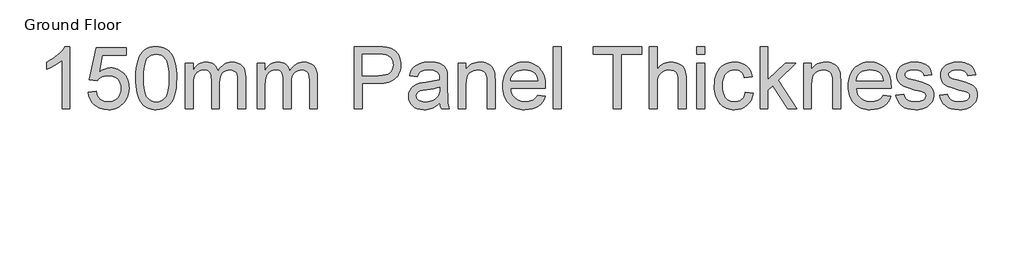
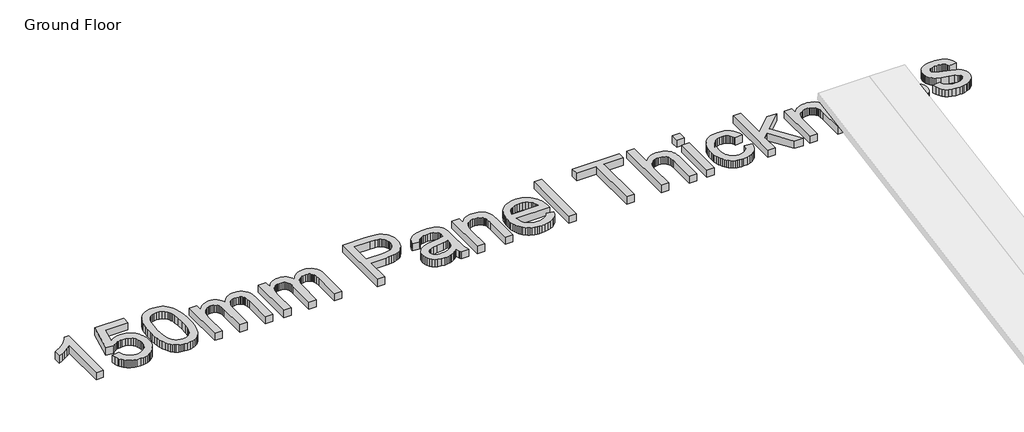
# One storey, part 5 of 5: 1 proxy.
"""IFC4 building model written with IfcOpenShell, lengths in millimetres."""

from ifc_helpers import new_model, si_unit, origin, origin_with_axes, place, context, project, spatial, polyline, outline, extrude, element, save

model = new_model("IFC4")

# Units and contexts
model_context = context("Model", 3, world=origin())
ifc_project = project(units=[si_unit("LENGTHUNIT", "METRE", prefix="MILLI")], contexts=[model_context])

# Site, building, storey
site = spatial("IfcSite", under=ifc_project)
building = spatial("IfcBuilding", under=site)
storey = spatial("IfcBuildingStorey", under=building, Name="Ground Floor", Elevation=0.0)

# Proxy
placement = place(None, origin())
element("IfcBuildingElementProxy", 1, Name="1200mm Arial", ObjectType="1200mm Arial", at=placement, inside=storey, context=model_context, shape_type="SweptSolid", body=[
    extrude(outline(polyline([(13867.9925063, -37488.8663729), (13721.0834154, -37488.8663729), (13721.0834154, -36572.9800092), (13659.7517393, -36622.5833473), (13581.9214836, -36672.1149524), (13500.2176484, -36715.4057905), (13427.2652336, -36746.2868274), (13427.2652336, -36607.4118274), (13486.8842854, -36577.5171186), (13542.647691, -36544.6454922), (13594.5554502, -36508.7969481), (13642.6075631, -36469.9714865), (13685.3693707, -36429.9624311), (13721.4062137, -36390.5631058), (13750.7180922, -36351.7735106), (13773.3050063, -36313.5936456), (13867.9925063, -36313.5936456), (13867.9925063, -37488.8663729)])), origin_with_axes(), (0.0, 0.0, 1.0), 150.0),
    extrude(outline(polyline([(14216.9015972, -37176.6845547), (14363.8106881, -37158.3209183), (14374.7858302, -37205.5481023), (14390.782279, -37246.5165859), (14411.8000347, -37281.2263693), (14437.8390972, -37309.6774524), (14468.8456668, -37331.8339687), (14504.7659438, -37347.6600518), (14545.5999282, -37357.1557017), (14591.3476199, -37360.3209183), (14647.2993245, -37355.9183082), (14696.6515972, -37342.710478), (14739.4044381, -37320.6974275), (14775.5578472, -37289.879157), (14804.3048287, -37251.7799915), (14824.838387, -37207.9242564), (14837.1585219, -37158.3119517), (14841.2652336, -37102.9430774), (14837.4185539, -37050.6138871), (14825.8785148, -37004.095066), (14806.6451164, -36963.3866143), (14779.7183586, -36928.488532), (14745.0085752, -36900.4947464), (14702.4261001, -36880.4991854), (14651.9709332, -36868.5018487), (14593.6430745, -36864.5027365), (14556.3150383, -36866.0987947), (14522.3763841, -36870.8869695), (14491.8271121, -36878.8672606), (14464.6672222, -36890.0396683), (14418.5787989, -36919.3784467), (14382.1743245, -36956.3209183), (14235.2652336, -36937.957282), (14363.8106881, -36331.957282), (14933.0834154, -36331.957282), (14933.0834154, -36478.8663729), (14482.6004609, -36478.8663729), (14419.7623927, -36802.5254638), (14471.6073856, -36765.3677933), (14524.7077052, -36738.8266001), (14579.0633515, -36722.9018842), (14634.6743245, -36717.5936456), (14671.1751901, -36719.2390202), (14706.21898, -36724.1751442), (14739.8056943, -36732.4020174), (14771.935333, -36743.9196399), (14802.607896, -36758.7280117), (14831.8233834, -36776.8271328), (14859.5817952, -36798.2170032), (14885.8831313, -36822.8976229), (14909.8576297, -36850.1651122), (14930.6355283, -36879.3155916), (14948.2168272, -36910.3490611), (14962.6015262, -36943.2655206), (14973.7896254, -36978.0649702), (14981.7811249, -37014.7474098), (14986.5760246, -37053.3128395), (14988.1743245, -37093.7612592), (14982.4177549, -37169.869924), (14965.1480461, -37240.6703501), (14936.3651981, -37306.1625376), (14896.0692109, -37366.3464865), (14866.8200986, -37399.3660621), (14835.0244665, -37427.9830277), (14800.6823145, -37452.1973832), (14763.7936427, -37472.0091285), (14724.3584509, -37487.4182638), (14682.3767393, -37498.4247891), (14637.8485077, -37505.0287042), (14590.7737563, -37507.2300092), (14514.96099, -37501.5720724), (14479.8051173, -37494.4996514), (14446.4829182, -37484.5982621), (14414.9943928, -37471.8679043), (14385.3395411, -37456.3085781), (14357.518363, -37437.9202835), (14331.5308586, -37416.7030206), (14307.8029422, -37393.1499533), (14286.7605283, -37367.7542457), (14268.4036169, -37340.5158979), (14252.732208, -37311.4349098), (14229.4458976, -37247.7450128), (14216.9015972, -37176.6845547)])), origin_with_axes(), (0.0, 0.0, 1.0), 150.0),
    extrude(outline(polyline([(15116.719779, -36910.6987592), (15119.4187314, -36811.8776477), (15127.5155887, -36722.5790859), (15141.0103508, -36642.8030739), (15159.9030177, -36572.5496115), (15184.1128898, -36511.2448352), (15213.5592677, -36458.3148814), (15248.2421512, -36413.75975), (15288.1615404, -36377.579441), (15333.4519346, -36349.5856555), (15384.247833, -36329.5900945), (15440.5492357, -36317.5927578), (15502.3561427, -36313.5936456), (15548.8032307, -36315.9608331), (15592.8831313, -36323.0623956), (15634.5958444, -36334.8983331), (15673.9413699, -36351.4686456), (15709.9692464, -36372.4953679), (15741.729012, -36397.7005348), (15769.2206668, -36427.0841463), (15792.4442109, -36460.6462024), (15812.5653046, -36498.2522038), (15830.7496086, -36539.7676513), (15861.3078472, -36634.5268842), (15872.9823856, -36690.2544233), (15881.3213415, -36754.8589155), (15886.3247151, -36828.3403608), (15887.9925063, -36910.6987592), (15885.3204537, -37008.8922074), (15877.3042961, -37097.7424382), (15863.9440333, -37177.2494517), (15845.2396654, -37247.4132479), (15821.2180922, -37308.744924), (15791.9062137, -37361.7555774), (15757.3040297, -37406.4452081), (15717.4115404, -37442.813816), (15672.0673465, -37470.9959006), (15621.1100489, -37491.1259609), (15564.5396476, -37503.2039972), (15502.3561427, -37507.2300092), (15460.751029, -37505.4815185), (15421.4413699, -37500.2360462), (15384.4271654, -37491.4935923), (15349.7084154, -37479.254157), (15317.2851199, -37463.51774), (15287.157279, -37444.2843416), (15259.3248927, -37421.5539616), (15233.7879609, -37395.3266001), (15206.3501057, -37353.7977028), (15182.5706313, -37306.8260675), (15162.4495376, -37254.4116942), (15145.9868245, -37196.5545831), (15133.1824921, -37133.254734), (15124.0365404, -37064.512147), (15118.5489694, -36990.3268221), (15116.719779, -36910.6987592)]), holes=[polyline([(15263.6288699, -36910.4118274), (15267.9328472, -37038.1233864), (15280.844779, -37141.4995405), (15290.5287279, -37184.0618407), (15302.3646654, -37220.5402898), (15316.3525915, -37250.9348876), (15332.4925063, -37275.2456342), (15368.9328472, -37312.466071), (15409.3902336, -37339.0520973), (15453.8646654, -37355.0037131), (15502.3561427, -37360.3209183), (15550.8476199, -37354.9857798), (15595.3220518, -37338.9803643), (15635.7794381, -37312.3046719), (15672.219779, -37274.9587024), (15688.3596938, -37250.5896728), (15702.3476199, -37220.1636918), (15714.1835574, -37183.6807594), (15723.8675063, -37141.1408757), (15736.7794381, -37037.8902543), (15741.0834154, -36910.4118274), (15736.922904, -36786.0806839), (15724.4413699, -36684.5247535), (15715.0802194, -36642.2874932), (15703.6388131, -36605.7440362), (15690.1171512, -36574.8943824), (15674.5152336, -36549.738532), (15638.6846228, -36510.6978714), (15597.7609722, -36482.8116854), (15551.7442819, -36466.0799737), (15500.6345518, -36460.5027365), (15452.3941398, -36465.4164439), (15408.672904, -36480.157566), (15369.4708444, -36504.726103), (15334.7879609, -36539.1220547), (15318.1100489, -36566.954441), (15303.6558586, -36600.095066), (15291.4253898, -36638.5439297), (15281.4186427, -36682.301032), (15268.0763131, -36785.7399524), (15263.6288699, -36910.4118274)])]), origin_with_axes(), (0.0, 0.0, 1.0), 150.0),
    extrude(outline(polyline([(16053.2652336, -37488.8663729), (16053.2652336, -36625.7754638), (16200.1743245, -36625.7754638), (16200.1743245, -36767.8067138), (16220.6899495, -36733.4197287), (16244.3618245, -36702.5655916), (16271.1899495, -36675.2443025), (16301.1743245, -36651.4558615), (16333.830752, -36632.1865966), (16368.6750347, -36618.4228359), (16405.7071725, -36610.1645795), (16444.9271654, -36607.4118274), (16487.805539, -36610.2183793), (16526.6310006, -36618.6380348), (16561.4035503, -36632.670794), (16592.1231881, -36652.316657), (16618.7002478, -36677.0196932), (16641.0450631, -36706.2239723), (16659.1576341, -36739.9294943), (16673.0379609, -36778.1362592), (16698.8707911, -36738.1227205), (16726.5866114, -36703.4443203), (16756.1854218, -36674.1010586), (16787.6672222, -36650.0929354), (16821.0320127, -36631.4199506), (16856.2797932, -36618.0821044), (16893.4105638, -36610.0793967), (16932.4243245, -36607.4118274), (16991.2363806, -36611.850304), (17042.857208, -36625.1657337), (17087.2868067, -36647.3581165), (17124.5251768, -36678.4274524), (17153.962588, -36718.7324062), (17174.9893103, -36768.6316427), (17187.6053437, -36828.1251619), (17191.8106881, -36897.2129638), (17191.8106881, -37488.8663729), (17044.9015972, -37488.8663729), (17044.9015972, -36960.3379638), (17041.4942819, -36887.0627507), (17031.2723359, -36837.6746115), (17023.0768458, -36819.8579389), (17012.119637, -36803.8525234), (16998.4007094, -36789.658365), (16981.9200631, -36777.2754638), (16963.2784616, -36767.2328501), (16943.0766682, -36760.0595547), (16897.9925063, -36754.3209183), (16856.3604928, -36757.9972322), (16818.4047932, -36769.026174), (16784.1254076, -36787.4077436), (16753.5223359, -36813.141941), (16728.3530354, -36846.9819623), (16710.3749637, -36889.6810035), (16699.5881207, -36941.2390646), (16695.9925063, -37001.6561456), (16695.9925063, -37488.8663729), (16549.0834154, -37488.8663729), (16549.0834154, -36943.9828501), (16546.9583266, -36899.4725518), (16540.5830603, -36860.9160888), (16529.9576164, -36828.3134609), (16515.0819949, -36801.6646683), (16495.3643991, -36780.9517777), (16470.2130319, -36766.1568558), (16439.6278934, -36757.2799027), (16403.6089836, -36754.3209183), (16374.7544026, -36756.2935746), (16347.0116824, -36762.2115433), (16320.3808231, -36772.0748246), (16294.8618245, -36785.8834183), (16271.6203472, -36803.4938587), (16251.8220518, -36824.7626797), (16235.4669381, -36849.6898814), (16222.5550063, -36878.2754638), (16212.763458, -36912.0437521), (16205.7694949, -36952.5190717), (16200.1743245, -37053.5908047), (16200.1743245, -37488.8663729), (16053.2652336, -37488.8663729)])), origin_with_axes(), (0.0, 0.0, 1.0), 150.0),
    extrude(outline(polyline([(17412.1743245, -37488.8663729), (17412.1743245, -36625.7754638), (17559.0834154, -36625.7754638), (17559.0834154, -36767.8067138), (17579.5990404, -36733.4197287), (17603.2709154, -36702.5655916), (17630.0990404, -36675.2443025), (17660.0834154, -36651.4558615), (17692.739843, -36632.1865966), (17727.5841256, -36618.4228359), (17764.6162634, -36610.1645795), (17803.8362563, -36607.4118274), (17846.7146299, -36610.2183793), (17885.5400915, -36618.6380348), (17920.3126412, -36632.670794), (17951.032279, -36652.316657), (17977.6093387, -36677.0196932), (17999.954154, -36706.2239723), (18018.0667251, -36739.9294943), (18031.9470518, -36778.1362592), (18057.779882, -36738.1227205), (18085.4957023, -36703.4443203), (18115.0945127, -36674.1010586), (18146.5763131, -36650.0929354), (18179.9411036, -36631.4199506), (18215.1888841, -36618.0821044), (18252.3196547, -36610.0793967), (18291.3334154, -36607.4118274), (18350.1454715, -36611.850304), (18401.7662989, -36625.1657337), (18446.1958976, -36647.3581165), (18483.4342677, -36678.4274524), (18512.8716789, -36718.7324062), (18533.8984012, -36768.6316427), (18546.5144346, -36828.1251619), (18550.719779, -36897.2129638), (18550.719779, -37488.8663729), (18403.8106881, -37488.8663729), (18403.8106881, -36960.3379638), (18400.4033728, -36887.0627507), (18390.1814268, -36837.6746115), (18381.9859367, -36819.8579389), (18371.0287279, -36803.8525234), (18357.3098003, -36789.658365), (18340.829154, -36777.2754638), (18322.1875525, -36767.2328501), (18301.9857591, -36760.0595547), (18256.9015972, -36754.3209183), (18215.2695837, -36757.9972322), (18177.3138841, -36769.026174), (18143.0344985, -36787.4077436), (18112.4314268, -36813.141941), (18087.2621263, -36846.9819623), (18069.2840546, -36889.6810035), (18058.4972116, -36941.2390646), (18054.9015972, -37001.6561456), (18054.9015972, -37488.8663729), (17907.9925063, -37488.8663729), (17907.9925063, -36943.9828501), (17905.8674175, -36899.4725518), (17899.4921512, -36860.9160888), (17888.8667073, -36828.3134609), (17873.9910859, -36801.6646683), (17854.27349, -36780.9517777), (17829.1221228, -36766.1568558), (17798.5369843, -36757.2799027), (17762.5180745, -36754.3209183), (17733.6634935, -36756.2935746), (17705.9207734, -36762.2115433), (17679.289914, -36772.0748246), (17653.7709154, -36785.8834183), (17630.5294381, -36803.4938587), (17610.7311427, -36824.7626797), (17594.376029, -36849.6898814), (17581.4640972, -36878.2754638), (17571.6725489, -36912.0437521), (17564.6785859, -36952.5190717), (17559.0834154, -37053.5908047), (17559.0834154, -37488.8663729), (17412.1743245, -37488.8663729)])), origin_with_axes(), (0.0, 0.0, 1.0), 150.0),
    extrude(outline(polyline([(19248.5379609, -37488.8663729), (19248.5379609, -36313.5936456), (19684.1004609, -36313.5936456), (19785.5308586, -36316.3912308), (19859.7027336, -36324.7839865), (19900.581551, -36333.5981733), (19937.9992535, -36345.6941427), (19971.9558408, -36361.0718949), (20002.4513131, -36379.7314297), (20029.8084687, -36402.0583118), (20054.3501057, -36428.4381058), (20076.0762243, -36458.8708118), (20094.9868245, -36493.3564297), (20110.3018103, -36530.7561989), (20121.2410859, -36569.9313587), (20127.8046512, -36610.8819091), (20129.9925063, -36653.6078501), (20124.0835042, -36725.7532692), (20116.6972515, -36759.6605401), (20106.3564978, -36792.1241854), (20093.061243, -36823.1442049), (20076.8114871, -36852.7205987), (20057.6072302, -36880.8533668), (20035.4484722, -36907.5425092), (20009.4340679, -36931.8868807), (19978.6628721, -36952.9853359), (19943.1348847, -36970.837875), (19902.8501057, -36985.4444979), (19857.8085352, -36996.8052045), (19808.0101732, -37004.919995), (19753.4550196, -37009.7888693), (19694.1430745, -37011.4118274), (19395.4470518, -37011.4118274), (19395.4470518, -37488.8663729), (19248.5379609, -37488.8663729)]), holes=[polyline([(19395.4470518, -36864.5027365), (19702.751029, -36864.5027365), (19773.4079893, -36861.1312876), (19833.0180745, -36851.016941), (19881.5812847, -36834.1596967), (19919.0976199, -36810.5595547), (19947.0914055, -36780.8441783), (19967.0869665, -36745.6412308), (19979.0843032, -36704.9507123), (19983.0834154, -36658.7726229), (19980.7251945, -36624.4842706), (19973.6505319, -36592.7783047), (19961.8594275, -36563.6547251), (19945.3518813, -36537.113532), (19925.0066221, -36514.0155206), (19901.7023785, -36495.2214865), (19875.4391505, -36480.7314297), (19846.2169381, -36470.5453501), (19789.547904, -36463.0133899), (19699.3078472, -36460.5027365), (19395.4470518, -36460.5027365), (19395.4470518, -36864.5027365)])]), origin_with_axes(), (0.0, 0.0, 1.0), 150.0),
    extrude(outline(polyline([(20864.5379609, -37378.6845547), (20829.7026448, -37411.3768487), (20794.3472648, -37438.8685035), (20758.4718209, -37461.1595192), (20722.0763131, -37478.2498956), (20684.7482769, -37490.9286953), (20646.0752478, -37499.9849808), (20606.0572258, -37505.4187521), (20564.6942109, -37507.2300092), (20499.2827229, -37502.8722322), (20441.9232591, -37489.7989013), (20392.6158195, -37468.0100163), (20351.360404, -37437.5055774), (20318.784676, -37400.2223743), (20295.5162989, -37358.0971967), (20281.5552726, -37311.1300447), (20276.9015972, -37259.3209183), (20278.6590546, -37228.1708828), (20283.9314268, -37198.4196399), (20292.7187137, -37170.0671896), (20305.0209154, -37143.113532), (20320.1834687, -37118.1504638), (20337.5518103, -37095.769782), (20357.1259403, -37075.9714865), (20378.9058586, -37058.7555774), (20427.5049353, -37030.7797251), (20481.7709154, -37010.551032), (20534.6381029, -36999.2889581), (20608.8817109, -36988.457282), (20759.0905177, -36965.2158047), (20817.0866114, -36952.088674), (20863.6771654, -36937.957282), (20864.5379609, -36905.2470547), (20862.0093742, -36869.6316427), (20854.4236143, -36839.6831342), (20841.780681, -36815.4015291), (20824.0805745, -36796.7868274), (20793.4864694, -36778.2079922), (20756.2211995, -36764.9373956), (20712.2847648, -36756.9750376), (20661.6771654, -36754.3209183), (20614.6203472, -36756.0873423), (20574.1629609, -36761.3866143), (20540.3050063, -36770.2187344), (20513.0464836, -36782.5837024), (20490.6478685, -36799.4499133), (20471.369637, -36821.7857621), (20455.211789, -36849.5912486), (20442.1743245, -36882.8663729), (20295.2652336, -36864.5027365), (20306.4466079, -36822.1802933), (20320.7662989, -36784.1618274), (20338.2243067, -36750.4473388), (20358.8206313, -36721.0368274), (20383.442968, -36695.3384964), (20412.979012, -36672.760549), (20447.4287634, -36653.3029851), (20486.7922222, -36636.9658047), (20530.2713593, -36624.0359396), (20577.0681455, -36614.8003217), (20627.1825809, -36609.258951), (20680.6146654, -36607.4118274), (20732.8452229, -36609.0437521), (20779.928941, -36613.9395263), (20821.8658195, -36622.0991498), (20858.6558586, -36633.5226229), (20890.6039232, -36647.4119162), (20918.0148785, -36662.9690007), (20940.8887243, -36680.1938764), (20959.2254609, -36699.0865433), (20974.0921157, -36720.1132656), (20986.5557165, -36743.7403075), (21004.2737563, -36798.7953501), (21009.6537279, -36849.582282), (21011.4470518, -36927.3408047), (21011.4470518, -37110.1163729), (21013.3121086, -37269.3276655), (21018.907279, -37365.3422251), (21029.954154, -37428.4313587), (21048.1743245, -37488.8663729), (20901.2652336, -37488.8663729), (20888.2098359, -37464.3337024), (20877.7368245, -37437.7925092), (20864.5379609, -37378.6845547)]), holes=[polyline([(20864.5379609, -37084.8663729), (20820.135262, -37097.5810391), (20765.8334154, -37109.3273104), (20627.532279, -37129.9146683), (20551.3160148, -37141.1767422), (20501.1388131, -37153.7300092), (20468.2492535, -37170.0133899), (20443.8959154, -37192.4658047), (20428.8319949, -37219.3656626), (20423.8106881, -37248.9913729), (20426.545507, -37271.8203856), (20434.7499637, -37292.6767422), (20448.4240582, -37311.5604425), (20467.5677904, -37328.4714865), (20492.001828, -37342.4056129), (20521.5468387, -37352.3585604), (20556.2028224, -37358.3303288), (20595.969779, -37360.3209183), (20636.5706313, -37358.1240966), (20674.876029, -37351.5336314), (20710.8859722, -37340.5495227), (20744.6004609, -37325.1717706), (20775.0152336, -37306.6736349), (20801.126029, -37286.3283757), (20822.9328472, -37264.1359929), (20840.4356881, -37240.0964865), (20850.6038344, -37218.5766001), (20857.8667961, -37192.4658047), (20862.2245731, -37161.7641001), (20863.6771654, -37126.4714865), (20864.5379609, -37084.8663729)])]), origin_with_axes(), (0.0, 0.0, 1.0), 150.0),
    extrude(outline(polyline([(21213.4470518, -37488.8663729), (21213.4470518, -36625.7754638), (21360.3561427, -36625.7754638), (21360.3561427, -36746.2868274), (21384.5929147, -36713.7379993), (21411.3941398, -36685.5290149), (21440.7598181, -36661.6598743), (21472.6899495, -36642.1305774), (21507.184534, -36626.9411243), (21544.2435716, -36616.0915149), (21583.8670624, -36609.5817493), (21626.0550063, -36607.4118274), (21663.0243778, -36609.1603182), (21698.4694239, -36614.4057905), (21732.3901448, -36623.1482443), (21764.7865404, -36635.3876797), (21794.4301839, -36650.4695334), (21820.0926484, -36667.7392422), (21841.7739339, -36687.1968061), (21859.4740404, -36708.8422251), (21886.194566, -36758.5890291), (21903.5180745, -36816.8720547), (21909.3284438, -36872.6085604), (21911.2652336, -36958.9033047), (21911.2652336, -37488.8663729), (21764.3561427, -37488.8663729), (21764.3561427, -36978.7016001), (21760.1238984, -36902.7364013), (21754.833593, -36872.9851584), (21747.4271654, -36848.7214865), (21737.3397187, -36828.2865611), (21724.0063557, -36810.0215575), (21707.4270766, -36793.9264758), (21687.6018813, -36780.001316), (21665.2122329, -36768.766142), (21640.9395944, -36760.7410177), (21614.7839658, -36755.9259432), (21586.7453472, -36754.3209183), (21542.1364161, -36757.9254993), (21500.7016682, -36768.7392422), (21462.4411036, -36786.762147), (21427.3547222, -36811.9942138), (21411.6519301, -36828.0310124), (21398.0428437, -36847.3047606), (21386.5274628, -36869.8154584), (21377.1057876, -36895.5631058), (21364.5435539, -36956.7692493), (21360.3561427, -37030.923191), (21360.3561427, -37488.8663729), (21213.4470518, -37488.8663729)])), origin_with_axes(), (0.0, 0.0, 1.0), 150.0),
    extrude(outline(polyline([(22717.5436427, -37231.7754638), (22861.5834154, -37250.1391001), (22839.498632, -37307.8303288), (22809.6846228, -37358.6710604), (22772.1413877, -37402.6612947), (22726.8689268, -37439.801032), (22674.3335042, -37469.3012095), (22615.0013841, -37490.3727649), (22548.8725667, -37503.0156981), (22475.9470518, -37507.2300092), (22429.127849, -37505.4120272), (22384.7923998, -37499.958081), (22342.9407041, -37490.8681706), (22303.572762, -37478.1422962), (22266.6885734, -37461.7804576), (22232.2881384, -37441.7826548), (22200.3714569, -37418.148888), (22170.938529, -37390.879157), (22144.5094186, -37360.3276433), (22121.6041895, -37326.8485284), (22102.2228419, -37290.4418123), (22086.3653756, -37251.107495), (22074.0317908, -37208.8455765), (22065.2220873, -37163.6560568), (22059.9362652, -37115.5389359), (22058.1743245, -37064.4942138), (22059.9541984, -37011.7122092), (22065.2938202, -36961.9698885), (22074.1931899, -36915.2672518), (22086.6523074, -36871.604299), (22102.6711729, -36830.9810302), (22122.2497861, -36793.3974453), (22145.3881473, -36758.8535444), (22172.0862563, -36727.3493274), (22201.6223003, -36699.2389758), (22233.2744665, -36674.8766712), (22267.0427549, -36654.2624133), (22302.9271654, -36637.3962024), (22340.9276981, -36624.2780383), (22381.0443529, -36614.9079212), (22423.2771299, -36609.2858508), (22467.626029, -36607.4118274), (22510.5245775, -36609.2813675), (22551.4190866, -36614.8899879), (22590.3095562, -36624.2376886), (22627.1959864, -36637.3244695), (22662.0783772, -36654.1503306), (22694.9567286, -36674.715272), (22725.8310406, -36699.0192937), (22754.7013131, -36727.0623956), (22780.8278002, -36758.4948796), (22803.4707556, -36792.9670476), (22822.6301794, -36830.4788995), (22838.3060716, -36871.0304354), (22850.4984323, -36914.6216552), (22859.2072613, -36961.2525589), (22864.4325587, -37010.9231467), (22866.1743245, -37063.6334183), (22865.313529, -37103.2300092), (22205.0834154, -37103.2300092), (22213.5927371, -37161.8537663), (22230.5127478, -37213.1966285), (22255.8434474, -37257.2585959), (22289.5848359, -37294.0396683), (22329.8718564, -37323.0377152), (22374.8394523, -37343.7506058), (22424.4876235, -37356.1783402), (22478.8163699, -37360.3209183), (22519.4530887, -37358.4020618), (22557.0052904, -37352.6454922), (22591.4729751, -37343.0512095), (22622.8561427, -37329.6192138), (22651.1547932, -37311.9908402), (22676.3689268, -37289.807424), (22698.4985432, -37263.0689652), (22717.5436427, -37231.7754638)]), holes=[polyline([(22205.0834154, -36956.3209183), (22719.2652336, -36956.3209183), (22711.7153401, -36914.7516712), (22699.3952052, -36878.7058615), (22682.3048287, -36848.1834893), (22660.4442109, -36823.1845547), (22620.3813557, -36793.0567138), (22574.7950631, -36771.5368274), (22523.685333, -36758.6248956), (22467.0521654, -36754.3209183), (22415.3954715, -36757.7551335), (22368.0248216, -36768.0577791), (22324.9402158, -36785.2288551), (22286.141654, -36809.2683615), (22253.5838593, -36839.0644375), (22229.2215546, -36873.5052223), (22213.05474, -36912.5907159), (22205.0834154, -36956.3209183)])]), origin_with_axes(), (0.0, 0.0, 1.0), 150.0),
    extrude(outline(polyline([(23013.0834154, -37488.8663729), (23013.0834154, -36313.5936456), (23159.9925063, -36313.5936456), (23159.9925063, -37488.8663729), (23013.0834154, -37488.8663729)])), origin_with_axes(), (0.0, 0.0, 1.0), 150.0),
    extrude(outline(polyline([(24151.6288699, -37488.8663729), (24151.6288699, -36460.5027365), (23765.9925063, -36460.5027365), (23765.9925063, -36313.5936456), (24684.1743245, -36313.5936456), (24684.1743245, -36460.5027365), (24298.5379609, -36460.5027365), (24298.5379609, -37488.8663729), (24151.6288699, -37488.8663729)])), origin_with_axes(), (0.0, 0.0, 1.0), 150.0),
    extrude(outline(polyline([(24831.0834154, -37488.8663729), (24831.0834154, -36313.5936456), (24977.9925063, -36313.5936456), (24977.9925063, -36745.7129638), (25004.1436515, -36713.2986349), (25031.9536214, -36685.2062166), (25061.4224158, -36661.4357088), (25092.5500347, -36641.9871115), (25125.3364783, -36626.8604247), (25159.7817464, -36616.0556484), (25195.885839, -36609.5727827), (25233.6487563, -36607.4118274), (25279.5757805, -36609.7700483), (25322.3824211, -36616.8447109), (25362.0686782, -36628.6358153), (25398.6345518, -36645.1433615), (25431.1475134, -36665.811419), (25458.6750347, -36690.0840575), (25481.2171157, -36717.961277), (25498.7737563, -36749.4430774), (25511.9546867, -36786.4752152), (25521.369637, -36831.0034467), (25527.0186072, -36883.027772), (25528.9015972, -36942.548191), (25528.9015972, -37488.8663729), (25381.9925063, -37488.8663729), (25381.9925063, -36957.7555774), (25379.0693884, -36908.1522393), (25370.3000347, -36865.7939297), (25355.6844452, -36830.6806484), (25335.2226199, -36802.8123956), (25309.3987563, -36781.5973743), (25278.6970518, -36766.4437876), (25243.1175063, -36757.3516356), (25202.6601199, -36754.3209183), (25171.142453, -36756.3653075), (25140.5752478, -36762.4984751), (25110.9585042, -36772.7204212), (25082.2922222, -36787.0311456), (25056.127627, -36804.8388516), (25034.0159438, -36825.5517422), (25015.9571725, -36849.1698175), (25001.9513131, -36875.6930774), (24991.4693351, -36906.3409822), (24983.982208, -36942.3329922), (24979.4899317, -36983.6691072), (24977.9925063, -37030.3493274), (24977.9925063, -37488.8663729), (24831.0834154, -37488.8663729)])), origin_with_axes(), (0.0, 0.0, 1.0), 150.0),
    extrude(outline(polyline([(25730.9015972, -37488.8663729), (25730.9015972, -36625.7754638), (25877.8106881, -36625.7754638), (25877.8106881, -37488.8663729), (25730.9015972, -37488.8663729)])), origin_with_axes(), (0.0, 0.0, 1.0), 150.0),
    extrude(outline(polyline([(25730.9015972, -36460.5027365), (25730.9015972, -36313.5936456), (25877.8106881, -36313.5936456), (25877.8106881, -36460.5027365), (25730.9015972, -36460.5027365)])), origin_with_axes(), (0.0, 0.0, 1.0), 150.0),
    extrude(outline(polyline([(26649.0834154, -37176.6845547), (26795.9925063, -37195.048191), (26780.0139907, -37264.369125), (26755.0329893, -37325.7097677), (26721.049502, -37379.0701193), (26678.063529, -37424.4501797), (26627.8863273, -37460.6663551), (26572.329154, -37486.5350518), (26511.3920091, -37502.0562699), (26445.0748927, -37507.2300092), (26402.8129742, -37505.4254771), (26362.6806278, -37500.0118807), (26324.6778534, -37490.98922), (26288.8046512, -37478.357495), (26255.061021, -37462.1167058), (26223.446963, -37442.2668523), (26193.962477, -37418.8079345), (26166.6075631, -37391.7399524), (26141.9605683, -37361.3005215), (26120.5998394, -37327.7272571), (26102.5253765, -37291.0201593), (26087.7371796, -37251.179228), (26076.2352487, -37208.2044632), (26068.0195837, -37162.095865), (26063.0901848, -37112.8534334), (26061.4470518, -37060.4771683), (26064.2536036, -36992.931625), (26072.6732591, -36929.7438587), (26086.7060184, -36870.9138693), (26106.3518813, -36816.441657), (26131.7453472, -36767.4211491), (26163.0209154, -36724.9462734), (26200.1785859, -36689.0170298), (26243.2183586, -36659.6334183), (26290.1944772, -36636.7864723), (26339.1611853, -36620.4672251), (26390.1184829, -36610.6756768), (26443.0663699, -36607.4118274), (26508.2447258, -36611.8951371), (26567.2002478, -36625.345066), (26619.932936, -36647.7616143), (26666.4427904, -36679.144782), (26705.9407485, -36718.7772393), (26737.6377478, -36765.941657), (26761.5337883, -36820.6380348), (26777.6288699, -36882.8663729), (26630.719779, -36901.2300092), (26619.2514729, -36866.9147571), (26604.0709864, -36837.1366143), (26585.1783195, -36811.895581), (26562.5734722, -36791.191657), (26536.8303082, -36775.0607088), (26508.522691, -36763.538603), (26477.6506207, -36756.6253395), (26444.2140972, -36754.3209183), (26394.2969275, -36758.8580277), (26349.2755319, -36772.4693558), (26309.1499104, -36795.1549027), (26273.9200631, -36826.9146683), (26258.5535193, -36846.3811989), (26245.2358479, -36868.4839155), (26224.7471228, -36920.597907), (26212.4538877, -36983.2566427), (26208.3561427, -37056.4601229), (26212.3642215, -37130.7664972), (26224.388458, -37194.1515291), (26244.4288522, -37246.6152187), (26257.4551084, -37268.7515602), (26272.485404, -37288.157566), (26307.015855, -37319.7290327), (26346.4779466, -37342.2800802), (26390.8716789, -37355.8107088), (26440.1970518, -37360.3209183), (26479.9460752, -37357.5053998), (26516.2698501, -37349.0588445), (26549.1683763, -37334.9812521), (26578.641654, -37315.2726229), (26603.8647542, -37289.7177578), (26624.0127478, -37258.1014581), (26639.0856349, -37220.4237237), (26649.0834154, -37176.6845547)])), origin_with_axes(), (0.0, 0.0, 1.0), 150.0),
    extrude(outline(polyline([(26924.5379609, -37488.8663729), (26924.5379609, -36313.5936456), (27071.4470518, -36313.5936456), (27071.4470518, -36945.1305774), (27400.844779, -36625.7754638), (27603.9925063, -36625.7754638), (27270.5777336, -36949.1476229), (27622.3561427, -37488.8663729), (27450.7709154, -37488.8663729), (27165.2737563, -37051.2953501), (27071.4470518, -37142.2527365), (27071.4470518, -37488.8663729), (26924.5379609, -37488.8663729)])), origin_with_axes(), (0.0, 0.0, 1.0), 150.0),
    extrude(outline(polyline([(27750.9015972, -37488.8663729), (27750.9015972, -36625.7754638), (27897.8106881, -36625.7754638), (27897.8106881, -36746.2868274), (27922.0474601, -36713.7379993), (27948.8486853, -36685.5290149), (27978.2143635, -36661.6598743), (28010.1444949, -36642.1305774), (28044.6390795, -36626.9411243), (28081.6981171, -36616.0915149), (28121.3216079, -36609.5817493), (28163.5095518, -36607.4118274), (28200.4789232, -36609.1603182), (28235.9239694, -36614.4057905), (28269.8446903, -36623.1482443), (28302.2410859, -36635.3876797), (28331.8847293, -36650.4695334), (28357.5471938, -36667.7392422), (28379.2284793, -36687.1968061), (28396.9285859, -36708.8422251), (28423.6491114, -36758.5890291), (28440.9726199, -36816.8720547), (28446.7829893, -36872.6085604), (28448.719779, -36958.9033047), (28448.719779, -37488.8663729), (28301.8106881, -37488.8663729), (28301.8106881, -36978.7016001), (28297.5784438, -36902.7364013), (28292.2881384, -36872.9851584), (28284.8817109, -36848.7214865), (28274.7942641, -36828.2865611), (28261.4609012, -36810.0215575), (28244.8816221, -36793.9264758), (28225.0564268, -36780.001316), (28202.6667783, -36768.766142), (28178.3941398, -36760.7410177), (28152.2385113, -36755.9259432), (28124.1998927, -36754.3209183), (28079.5909616, -36757.9254993), (28038.1562137, -36768.7392422), (27999.8956491, -36786.762147), (27964.8092677, -36811.9942138), (27949.1064756, -36828.0310124), (27935.4973891, -36847.3047606), (27923.9820083, -36869.8154584), (27914.560333, -36895.5631058), (27901.9980993, -36956.7692493), (27897.8106881, -37030.923191), (27897.8106881, -37488.8663729), (27750.9015972, -37488.8663729)])), origin_with_axes(), (0.0, 0.0, 1.0), 150.0),
    extrude(outline(polyline([(29254.9981881, -37231.7754638), (29399.0379609, -37250.1391001), (29376.9531775, -37307.8303288), (29347.1391682, -37358.6710604), (29309.5959332, -37402.6612947), (29264.3234722, -37439.801032), (29211.7880496, -37469.3012095), (29152.4559296, -37490.3727649), (29086.3271121, -37503.0156981), (29013.4015972, -37507.2300092), (28966.5823944, -37505.4120272), (28922.2469452, -37499.958081), (28880.3952496, -37490.8681706), (28841.0273074, -37478.1422962), (28804.1431189, -37461.7804576), (28769.7426839, -37441.7826548), (28737.8260024, -37418.148888), (28708.3930745, -37390.879157), (28681.963964, -37360.3276433), (28659.058735, -37326.8485284), (28639.6773873, -37290.4418123), (28623.8199211, -37251.107495), (28611.4863362, -37208.8455765), (28602.6766327, -37163.6560568), (28597.3908106, -37115.5389359), (28595.6288699, -37064.4942138), (28597.4087439, -37011.7122092), (28602.7483657, -36961.9698885), (28611.6477354, -36915.2672518), (28624.1068529, -36871.604299), (28640.1257183, -36830.9810302), (28659.7043316, -36793.3974453), (28682.8426927, -36758.8535444), (28709.5408018, -36727.3493274), (28739.0768458, -36699.2389758), (28770.729012, -36674.8766712), (28804.4973003, -36654.2624133), (28840.3817109, -36637.3962024), (28878.3822435, -36624.2780383), (28918.4988984, -36614.9079212), (28960.7316753, -36609.2858508), (29005.0805745, -36607.4118274), (29047.979123, -36609.2813675), (29088.873632, -36614.8899879), (29127.7641017, -36624.2376886), (29164.6505319, -36637.3244695), (29199.5329227, -36654.1503306), (29232.4112741, -36674.715272), (29263.285586, -36699.0192937), (29292.1558586, -36727.0623956), (29318.2823456, -36758.4948796), (29340.925301, -36792.9670476), (29360.0847249, -36830.4788995), (29375.7606171, -36871.0304354), (29387.9529777, -36914.6216552), (29396.6618067, -36961.2525589), (29401.8871041, -37010.9231467), (29403.6288699, -37063.6334183), (29402.7680745, -37103.2300092), (28742.5379609, -37103.2300092), (28751.0472826, -37161.8537663), (28767.9672932, -37213.1966285), (28793.2979928, -37257.2585959), (28827.0393813, -37294.0396683), (28867.3264019, -37323.0377152), (28912.2939978, -37343.7506058), (28961.9421689, -37356.1783402), (29016.2709154, -37360.3209183), (29056.9076341, -37358.4020618), (29094.4598359, -37352.6454922), (29128.9275205, -37343.0512095), (29160.3106881, -37329.6192138), (29188.6093387, -37311.9908402), (29213.8234722, -37289.807424), (29235.9530887, -37263.0689652), (29254.9981881, -37231.7754638)]), holes=[polyline([(28742.5379609, -36956.3209183), (29256.719779, -36956.3209183), (29249.1698856, -36914.7516712), (29236.8497506, -36878.7058615), (29219.7593742, -36848.1834893), (29197.8987563, -36823.1845547), (29157.8359012, -36793.0567138), (29112.2496086, -36771.5368274), (29061.1398785, -36758.6248956), (29004.5067109, -36754.3209183), (28952.850017, -36757.7551335), (28905.4793671, -36768.0577791), (28862.3947613, -36785.2288551), (28823.5961995, -36809.2683615), (28791.0384047, -36839.0644375), (28766.6761001, -36873.5052223), (28750.5092854, -36912.5907159), (28742.5379609, -36956.3209183)])]), origin_with_axes(), (0.0, 0.0, 1.0), 150.0),
    extrude(outline(polyline([(29495.4470518, -37231.7754638), (29642.3561427, -37213.4118274), (29651.2330958, -37246.9111172), (29665.525887, -37276.2498956), (29685.2345162, -37301.4281626), (29710.3589836, -37322.4459183), (29740.9710219, -37339.0162308), (29777.1423643, -37350.8521683), (29818.8730106, -37357.9537308), (29866.1629609, -37360.3209183), (29913.3991114, -37358.1509964), (29954.1075631, -37351.6412308), (29988.288316, -37340.7916214), (30015.9413699, -37325.6021683), (30037.2819239, -37307.4895973), (30052.5251768, -37287.8706342), (30061.6711285, -37266.7452791), (30064.719779, -37244.113532), (30061.6531952, -37224.27937), (30052.4534438, -37206.6689297), (30037.1205248, -37191.2822109), (30015.6544381, -37178.1192138), (29960.635262, -37159.4686456), (29864.4413699, -37136.2271683), (29730.3724779, -37097.4555064), (29643.2169381, -37064.3507479), (29613.2953295, -37047.7535355), (29587.2293671, -37028.2332052), (29565.019051, -37005.7897571), (29546.6643813, -36980.423191), (29532.2908905, -36952.8956697), (29522.0241114, -36923.9693558), (29515.8640439, -36893.6442493), (29513.8106881, -36861.9203501), (29515.4605461, -36832.9133366), (29520.4101199, -36805.0002507), (29528.6594097, -36778.1810923), (29540.2084154, -36752.4558615), (29554.608806, -36728.3446222), (29571.4122506, -36706.3674382), (29590.6187492, -36686.5243097), (29612.2283018, -36668.8152365), (29652.7932876, -36645.179228), (29705.6246086, -36625.345066), (29766.7052194, -36611.8951371), (29832.0180745, -36607.4118274), (29881.3882805, -36609.2141179), (29927.6381029, -36614.6209893), (29970.7675418, -36623.6324418), (30010.7765972, -36636.2484751), (30046.7148074, -36651.9400589), (30077.6317109, -36670.1781626), (30103.5273074, -36690.9627862), (30124.4015972, -36714.2939297), (30141.3305745, -36740.9875554), (30155.3902336, -36771.8596257), (30166.5805745, -36806.9101406), (30174.9015972, -36846.1391001), (30027.9925063, -36864.5027365), (30020.9895766, -36839.9610994), (30009.4495376, -36818.2708473), (29993.3723891, -36799.4319801), (29972.7581313, -36783.4444979), (29947.5170979, -36770.7029318), (29917.5596228, -36761.6018132), (29882.8857059, -36756.141142), (29843.4953472, -36754.3209183), (29797.8014552, -36756.0604425), (29759.1373927, -36761.2790149), (29727.5031597, -36769.9766356), (29702.8987563, -36782.1533047), (29684.4454537, -36796.6433615), (29671.2645234, -36812.2811456), (29663.3559651, -36829.066657), (29660.719779, -36846.9998956), (29665.0954893, -36869.5957763), (29678.2226199, -36889.7527365), (29700.6750347, -36907.7577081), (29733.0265972, -36922.176032), (29859.563529, -36953.4516001), (29989.3643103, -36991.8287308), (30075.1927904, -37022.6021683), (30105.3923643, -37037.6122891), (30132.1487563, -37055.6710604), (30155.4619665, -37076.7784822), (30175.3319949, -37100.9345547), (30191.2118778, -37128.1751442), (30202.5546512, -37158.5361172), (30209.3603153, -37192.0174737), (30211.6288699, -37228.6192138), (30208.965784, -37265.382353), (30200.9765262, -37301.0694979), (30187.6610965, -37335.6806484), (30169.0194949, -37369.2158047), (30145.3565866, -37400.3389403), (30116.9772364, -37427.7140291), (30083.8814445, -37451.341071), (30046.0692109, -37471.220066), (30004.5716966, -37486.9744162), (29960.4200631, -37498.2275234), (29913.6143103, -37504.9793878), (29864.1544381, -37507.2300092), (29785.086789, -37502.8901655), (29716.025887, -37489.8706342), (29656.9717322, -37468.1714155), (29607.9243245, -37437.7925092), (29567.8614694, -37398.8773814), (29535.7609722, -37351.5694979), (29511.622833, -37295.8688587), (29495.4470518, -37231.7754638)])), origin_with_axes(), (0.0, 0.0, 1.0), 150.0),
    extrude(outline(polyline([(30321.8106881, -37231.7754638), (30468.719779, -37213.4118274), (30477.5967322, -37246.9111172), (30491.8895234, -37276.2498956), (30511.5981526, -37301.4281626), (30536.7226199, -37322.4459183), (30567.3346583, -37339.0162308), (30603.5060006, -37350.8521683), (30645.2366469, -37357.9537308), (30692.5265972, -37360.3209183), (30739.7627478, -37358.1509964), (30780.4711995, -37351.6412308), (30814.6519523, -37340.7916214), (30842.3050063, -37325.6021683), (30863.6455603, -37307.4895973), (30878.8888131, -37287.8706342), (30888.0347648, -37266.7452791), (30891.0834154, -37244.113532), (30888.0168316, -37224.27937), (30878.8170802, -37206.6689297), (30863.4841611, -37191.2822109), (30842.0180745, -37178.1192138), (30786.9988984, -37159.4686456), (30690.8050063, -37136.2271683), (30556.7361143, -37097.4555064), (30469.5805745, -37064.3507479), (30439.6589658, -37047.7535355), (30413.5930035, -37028.2332052), (30391.3826874, -37005.7897571), (30373.0280177, -36980.423191), (30358.6545269, -36952.8956697), (30348.3877478, -36923.9693558), (30342.2276803, -36893.6442493), (30340.1743245, -36861.9203501), (30341.8241824, -36832.9133366), (30346.7737563, -36805.0002507), (30355.0230461, -36778.1810923), (30366.5720518, -36752.4558615), (30380.9724424, -36728.3446222), (30397.775887, -36706.3674382), (30416.9823856, -36686.5243097), (30438.5919381, -36668.8152365), (30479.1569239, -36645.179228), (30531.9882449, -36625.345066), (30593.0688557, -36611.8951371), (30658.3817109, -36607.4118274), (30707.7519168, -36609.2141179), (30754.0017393, -36614.6209893), (30797.1311782, -36623.6324418), (30837.1402336, -36636.2484751), (30873.0784438, -36651.9400589), (30903.9953472, -36670.1781626), (30929.8909438, -36690.9627862), (30950.7652336, -36714.2939297), (30967.6942109, -36740.9875554), (30981.7538699, -36771.8596257), (30992.9442109, -36806.9101406), (31001.2652336, -36846.1391001), (30854.3561427, -36864.5027365), (30847.353213, -36839.9610994), (30835.8131739, -36818.2708473), (30819.7360255, -36799.4319801), (30799.1217677, -36783.4444979), (30773.8807343, -36770.7029318), (30743.9232591, -36761.6018132), (30709.2493422, -36756.141142), (30669.8589836, -36754.3209183), (30624.1650915, -36756.0604425), (30585.501029, -36761.2790149), (30553.8667961, -36769.9766356), (30529.2623927, -36782.1533047), (30510.8090901, -36796.6433615), (30497.6281597, -36812.2811456), (30489.7196015, -36829.066657), (30487.0834154, -36846.9998956), (30491.4591256, -36869.5957763), (30504.5862563, -36889.7527365), (30527.0386711, -36907.7577081), (30559.3902336, -36922.176032), (30685.9271654, -36953.4516001), (30815.7279466, -36991.8287308), (30901.5564268, -37022.6021683), (30931.7560006, -37037.6122891), (30958.5123927, -37055.6710604), (30981.8256029, -37076.7784822), (31001.6956313, -37100.9345547), (31017.5755141, -37128.1751442), (31028.9182876, -37158.5361172), (31035.7239516, -37192.0174737), (31037.9925063, -37228.6192138), (31035.3294204, -37265.382353), (31027.3401626, -37301.0694979), (31014.0247329, -37335.6806484), (30995.3831313, -37369.2158047), (30971.7202229, -37400.3389403), (30943.3408728, -37427.7140291), (30910.2450809, -37451.341071), (30872.4328472, -37471.220066), (30830.935333, -37486.9744162), (30786.7836995, -37498.2275234), (30739.9779466, -37504.9793878), (30690.5180745, -37507.2300092), (30611.4504253, -37502.8901655), (30542.3895234, -37489.8706342), (30483.3353685, -37468.1714155), (30434.2879609, -37437.7925092), (30394.2251057, -37398.8773814), (30362.1246086, -37351.5694979), (30337.9864694, -37295.8688587), (30321.8106881, -37231.7754638)])), origin_with_axes(), (0.0, 0.0, 1.0), 150.0),
])

save(model, "model.ifc")
